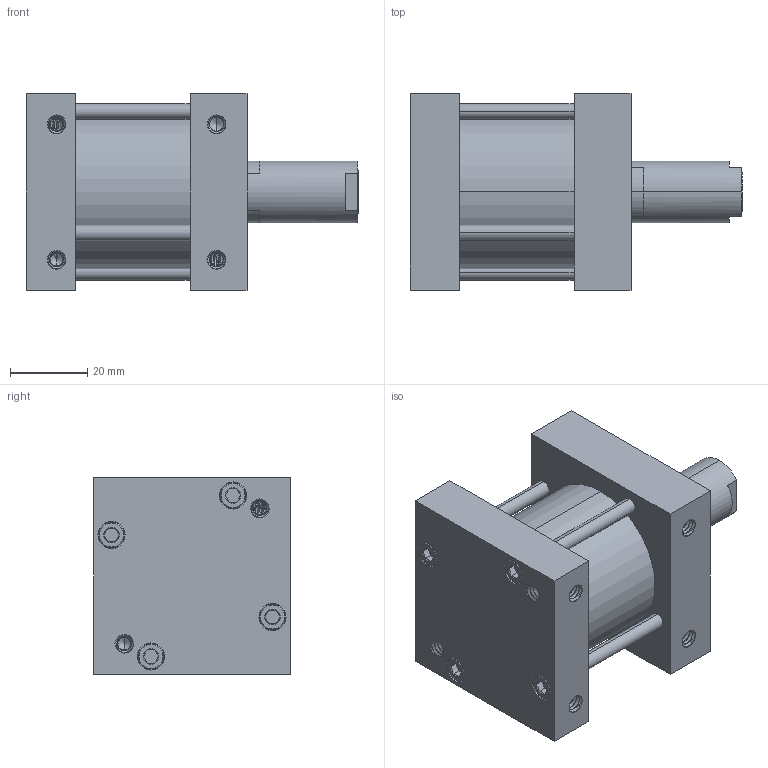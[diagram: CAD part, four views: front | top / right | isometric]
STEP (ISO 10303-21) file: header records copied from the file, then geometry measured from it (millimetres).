
FILE_DESCRIPTION (( 'STEP AP203' ), '1' );
FILE_NAME ('6113K148.step', '2015-05-14T13:44:54', ( 'Admin' ), ( 'McMaster-Carr Supply Co' ), 'SwSTEP 2.0', 'SolidWorks 2010', '' );
FILE_SCHEMA (( 'CONFIG_CONTROL_DESIGN' ));
Length unit declared in the file: inch
Products named in the file (1): 6113K148
Bounding box: 85.85 x 50.8 x 50.8 mm (x, y, z)
Volume: 97716.1 mm3; surface area: 40153.3 mm2
Topology: 3 solids, 3 shells, 848 faces, 2259 edges, 1431 vertices
Faces by surface type: cylinder 305, cone 224, bspline 181, plane 138
Entity records: 105295 total; most frequent: CARTESIAN_POINT 88016, ORIENTED_EDGE 4478, DIRECTION 2545, EDGE_CURVE 2239, VERTEX_POINT 1431, AXIS2_PLACEMENT_3D 1015, EDGE_LOOP 902, FACE_OUTER_BOUND 848
